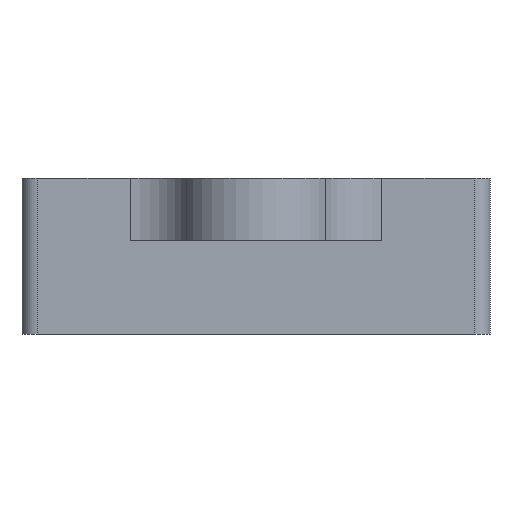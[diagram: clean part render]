
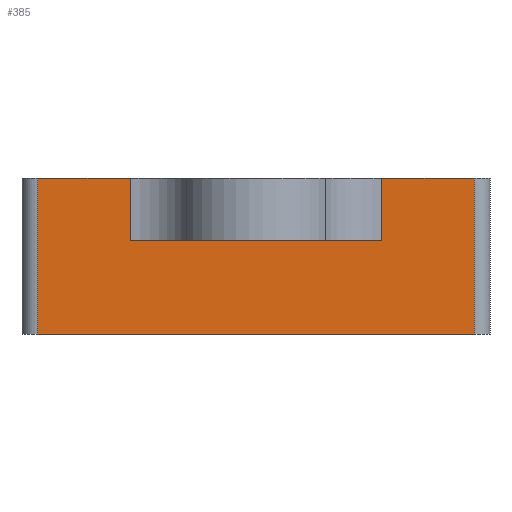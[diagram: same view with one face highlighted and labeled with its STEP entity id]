
A CAD part, front view. The second image highlights one B-rep face of the part: STEP entity #385.
In plain terms, the highlighted planar face has unit normal (0, -1, 0).
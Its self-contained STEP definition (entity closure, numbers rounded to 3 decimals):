
#35 = CARTESIAN_POINT ( 'NONE',  ( -8.055, -15., 10. ) ) ;
#47 = ORIENTED_EDGE ( 'NONE', *, *, #974, .T. ) ;
#49 = LINE ( 'NONE', #35, #582 ) ;
#88 = CARTESIAN_POINT ( 'NONE',  ( 14., -15., 10. ) ) ;
#105 = FACE_OUTER_BOUND ( 'NONE', #1002, .T. ) ;
#147 = CARTESIAN_POINT ( 'NONE',  ( -14., -15., 10. ) ) ;
#156 = VECTOR ( 'NONE', #1410, 1000. ) ;
#163 = DIRECTION ( 'NONE',  ( 0., 0., 1. ) ) ;
#174 = EDGE_CURVE ( 'NONE', #971, #830, #49, .T. ) ;
#185 = LINE ( 'NONE', #198, #1034 ) ;
#198 = CARTESIAN_POINT ( 'NONE',  ( 15., -15., 0. ) ) ;
#214 = CARTESIAN_POINT ( 'NONE',  ( 15., -15., 10. ) ) ;
#232 = CARTESIAN_POINT ( 'NONE',  ( -8.055, -15., 10. ) ) ;
#257 = DIRECTION ( 'NONE',  ( -1., 0., 0. ) ) ;
#260 = VERTEX_POINT ( 'NONE', #1042 ) ;
#263 = ORIENTED_EDGE ( 'NONE', *, *, #828, .T. ) ;
#348 = LINE ( 'NONE', #1221, #523 ) ;
#353 = DIRECTION ( 'NONE',  ( 1., 0., 0. ) ) ;
#385 = ADVANCED_FACE ( 'NONE', ( #105 ), #769, .F. ) ;
#394 = VECTOR ( 'NONE', #1409, 1000. ) ;
#415 = CARTESIAN_POINT ( 'NONE',  ( -14., -15., 10. ) ) ;
#426 = VECTOR ( 'NONE', #353, 1000. ) ;
#488 = ORIENTED_EDGE ( 'NONE', *, *, #694, .T. ) ;
#505 = VERTEX_POINT ( 'NONE', #1009 ) ;
#520 = LINE ( 'NONE', #415, #394 ) ;
#523 = VECTOR ( 'NONE', #257, 1000. ) ;
#527 = CARTESIAN_POINT ( 'NONE',  ( 8.055, -15., 10. ) ) ;
#535 = DIRECTION ( 'NONE',  ( 0., 0., -1. ) ) ;
#538 = VECTOR ( 'NONE', #702, 1000. ) ;
#542 = DIRECTION ( 'NONE',  ( 0., 1., 0. ) ) ;
#559 = VERTEX_POINT ( 'NONE', #811 ) ;
#582 = VECTOR ( 'NONE', #163, 1000. ) ;
#626 = CARTESIAN_POINT ( 'NONE',  ( -8.055, -15., 6. ) ) ;
#637 = ORIENTED_EDGE ( 'NONE', *, *, #726, .T. ) ;
#694 = EDGE_CURVE ( 'NONE', #260, #505, #1419, .T. ) ;
#702 = DIRECTION ( 'NONE',  ( 1., 0., 0. ) ) ;
#726 = EDGE_CURVE ( 'NONE', #1263, #827, #520, .T. ) ;
#769 = PLANE ( 'NONE',  #1297 ) ;
#774 = ORIENTED_EDGE ( 'NONE', *, *, #174, .T. ) ;
#806 = LINE ( 'NONE', #910, #538 ) ;
#811 = CARTESIAN_POINT ( 'NONE',  ( 14., -15., 10. ) ) ;
#827 = VERTEX_POINT ( 'NONE', #1332 ) ;
#828 = EDGE_CURVE ( 'NONE', #505, #971, #348, .T. ) ;
#830 = VERTEX_POINT ( 'NONE', #232 ) ;
#871 = ORIENTED_EDGE ( 'NONE', *, *, #1296, .F. ) ;
#895 = CARTESIAN_POINT ( 'NONE',  ( 15., -15., 10. ) ) ;
#910 = CARTESIAN_POINT ( 'NONE',  ( 15., -15., 10. ) ) ;
#923 = EDGE_CURVE ( 'NONE', #827, #1203, #185, .T. ) ;
#930 = VECTOR ( 'NONE', #535, 1000. ) ;
#971 = VERTEX_POINT ( 'NONE', #626 ) ;
#974 = EDGE_CURVE ( 'NONE', #1203, #559, #1063, .T. ) ;
#1002 = EDGE_LOOP ( 'NONE', ( #263, #774, #1213, #637, #1119, #47, #871, #488 ) ) ;
#1006 = LINE ( 'NONE', #895, #426 ) ;
#1009 = CARTESIAN_POINT ( 'NONE',  ( 8.055, -15., 6. ) ) ;
#1031 = EDGE_CURVE ( 'NONE', #1263, #830, #806, .T. ) ;
#1034 = VECTOR ( 'NONE', #1283, 1000. ) ;
#1042 = CARTESIAN_POINT ( 'NONE',  ( 8.055, -15., 10. ) ) ;
#1063 = LINE ( 'NONE', #88, #156 ) ;
#1067 = DIRECTION ( 'NONE',  ( -1., 0., 0. ) ) ;
#1093 = CARTESIAN_POINT ( 'NONE',  ( 14., -15., 0. ) ) ;
#1119 = ORIENTED_EDGE ( 'NONE', *, *, #923, .T. ) ;
#1203 = VERTEX_POINT ( 'NONE', #1093 ) ;
#1213 = ORIENTED_EDGE ( 'NONE', *, *, #1031, .F. ) ;
#1221 = CARTESIAN_POINT ( 'NONE',  ( 15., -15., 6. ) ) ;
#1263 = VERTEX_POINT ( 'NONE', #147 ) ;
#1283 = DIRECTION ( 'NONE',  ( 1., 0., 0. ) ) ;
#1296 = EDGE_CURVE ( 'NONE', #260, #559, #1006, .T. ) ;
#1297 = AXIS2_PLACEMENT_3D ( 'NONE', #214, #542, #1067 ) ;
#1332 = CARTESIAN_POINT ( 'NONE',  ( -14., -15., 0. ) ) ;
#1409 = DIRECTION ( 'NONE',  ( 0., 0., -1. ) ) ;
#1410 = DIRECTION ( 'NONE',  ( 0., 0., 1. ) ) ;
#1419 = LINE ( 'NONE', #527, #930 ) ;
